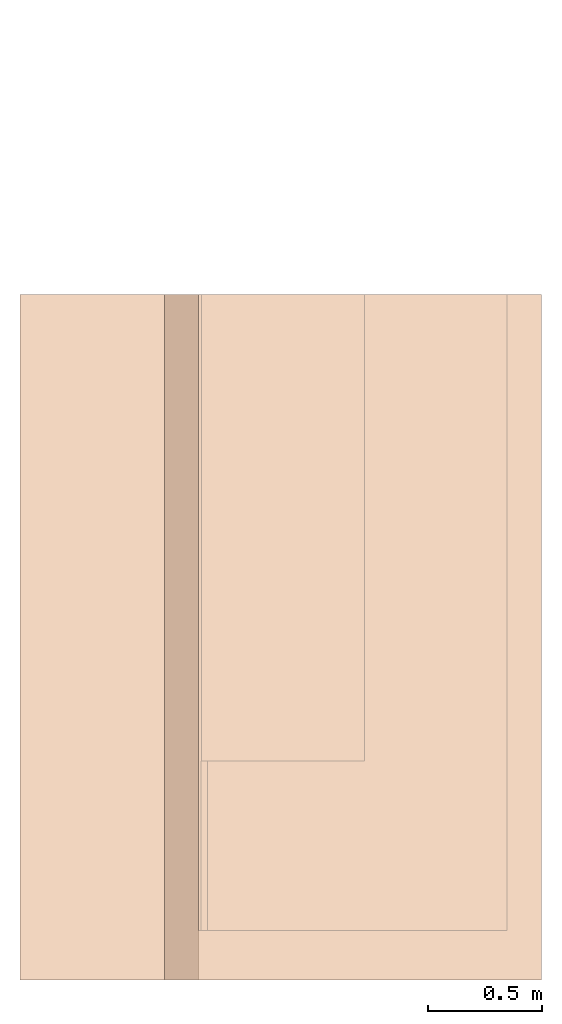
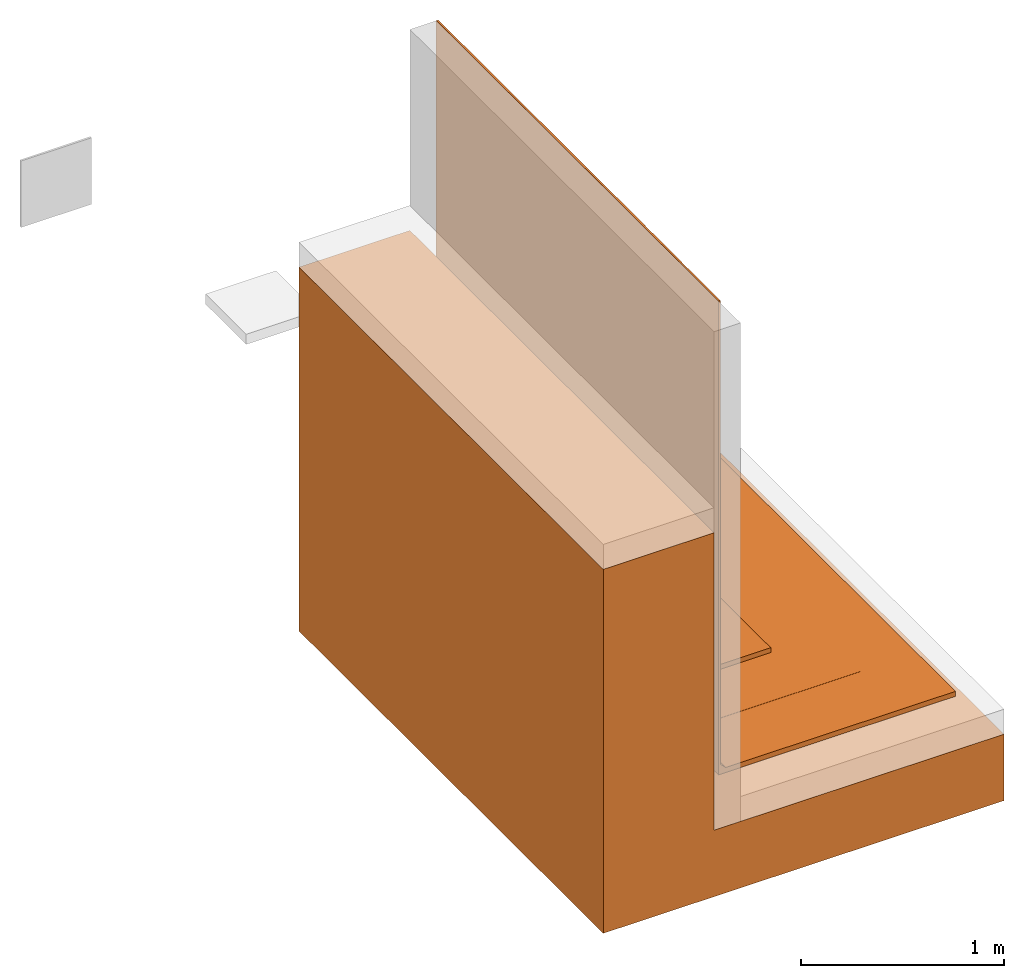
# One storey, part 2 of 2: 1 proxy.
"""IFC2X3 building model written with IfcOpenShell, lengths in metres."""

from ifc_helpers import new_model, entity, si_unit, converted_unit, derived_unit, direction, frame, frame_2d, origin, place, context, subcontext, project, spatial, polyline, circle_curve, parameter, trimmed, segment, composite_curve, rectangle, outline, extrude, source, transform, mapped, material, material_list, type_object, type_shapes, element, save


model = new_model("IFC2X3")

# Units and contexts
model_context = context("Model", 3, precision=1e-05, world=origin(), true_north=direction((6.123031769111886e-17, 1.0)))
body_context = subcontext(model_context, "Body", "Model", "MODEL_VIEW")
ifc_project = project(units=[si_unit("LENGTHUNIT", "METRE"), si_unit("AREAUNIT", "SQUARE_METRE"), si_unit("VOLUMEUNIT", "CUBIC_METRE"), converted_unit("PLANEANGLEUNIT", "DEGREE", entity("IfcRatioMeasure", 0.017453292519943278), si_unit("PLANEANGLEUNIT", "RADIAN"), dimensions=[0, 0, 0, 0, 0, 0, 0]), si_unit("MASSUNIT", "GRAM", prefix="KILO"), derived_unit("MASSDENSITYUNIT", [(si_unit("MASSUNIT", "GRAM", prefix="KILO"), 1), (si_unit("LENGTHUNIT", "METRE"), -3)]), derived_unit("IONCONCENTRATIONUNIT", [(si_unit("MASSUNIT", "GRAM", prefix="KILO"), 1), (si_unit("LENGTHUNIT", "METRE"), -3)]), derived_unit("MOMENTOFINERTIAUNIT", [(si_unit("LENGTHUNIT", "METRE"), 4)]), si_unit("TIMEUNIT", "SECOND"), si_unit("FREQUENCYUNIT", "HERTZ"), si_unit("THERMODYNAMICTEMPERATUREUNIT", "DEGREE_CELSIUS"), derived_unit("THERMALTRANSMITTANCEUNIT", [(si_unit("MASSUNIT", "GRAM", prefix="KILO"), 1), (si_unit("THERMODYNAMICTEMPERATUREUNIT", "KELVIN"), -1), (si_unit("TIMEUNIT", "SECOND"), -3)]), derived_unit("THERMALCONDUCTANCEUNIT", [(si_unit("MASSUNIT", "GRAM", prefix="KILO"), 1), (si_unit("THERMODYNAMICTEMPERATUREUNIT", "KELVIN"), -1), (si_unit("TIMEUNIT", "SECOND"), -3), (si_unit("LENGTHUNIT", "METRE"), 1)]), derived_unit("VOLUMETRICFLOWRATEUNIT", [(si_unit("LENGTHUNIT", "METRE"), 3), (si_unit("TIMEUNIT", "SECOND"), -1)]), derived_unit("MASSFLOWRATEUNIT", [(si_unit("MASSUNIT", "GRAM", prefix="KILO"), 1), (si_unit("TIMEUNIT", "SECOND"), -1)]), derived_unit("ROTATIONALFREQUENCYUNIT", [(si_unit("TIMEUNIT", "SECOND"), -1)]), si_unit("ELECTRICCURRENTUNIT", "AMPERE"), si_unit("ELECTRICVOLTAGEUNIT", "VOLT"), si_unit("POWERUNIT", "WATT"), si_unit("FORCEUNIT", "NEWTON", prefix="KILO"), si_unit("ILLUMINANCEUNIT", "LUX"), si_unit("LUMINOUSFLUXUNIT", "LUMEN"), si_unit("LUMINOUSINTENSITYUNIT", "CANDELA"), derived_unit("USERDEFINED", [(si_unit("MASSUNIT", "GRAM", prefix="KILO"), -1), (si_unit("LENGTHUNIT", "METRE"), -2), (si_unit("TIMEUNIT", "SECOND"), 3), (si_unit("LUMINOUSFLUXUNIT", "LUMEN"), 1)]), derived_unit("USERDEFINED", [(si_unit("MASSUNIT", "GRAM", prefix="KILO"), 1), (si_unit("TIMEUNIT", "SECOND"), -3), (si_unit("LENGTHUNIT", "METRE"), 3), (si_unit("ELECTRICCURRENTUNIT", "AMPERE"), -2)]), derived_unit("SOUNDPOWERUNIT", [(si_unit("MASSUNIT", "GRAM", prefix="KILO"), 1), (si_unit("TIMEUNIT", "SECOND"), -3), (si_unit("LENGTHUNIT", "METRE"), 2)]), derived_unit("SOUNDPRESSUREUNIT", [(si_unit("MASSUNIT", "GRAM", prefix="KILO"), 1), (si_unit("LENGTHUNIT", "METRE"), -1), (si_unit("TIMEUNIT", "SECOND"), -2)]), derived_unit("LINEARVELOCITYUNIT", [(si_unit("LENGTHUNIT", "METRE"), 1), (si_unit("TIMEUNIT", "SECOND"), -1)]), si_unit("PRESSUREUNIT", "PASCAL"), derived_unit("USERDEFINED", [(si_unit("MASSUNIT", "GRAM", prefix="KILO"), 1), (si_unit("LENGTHUNIT", "METRE"), -2), (si_unit("TIMEUNIT", "SECOND"), -2)]), derived_unit("LINEARFORCEUNIT", [(si_unit("MASSUNIT", "GRAM", prefix="KILO"), 1), (si_unit("TIMEUNIT", "SECOND"), -2)]), derived_unit("PLANARFORCEUNIT", [(si_unit("MASSUNIT", "GRAM", prefix="KILO"), 1), (si_unit("LENGTHUNIT", "METRE"), -1), (si_unit("TIMEUNIT", "SECOND"), -2)]), derived_unit("SPECIFICHEATCAPACITYUNIT", [(si_unit("THERMODYNAMICTEMPERATUREUNIT", "KELVIN"), -1), (si_unit("LENGTHUNIT", "METRE"), 2), (si_unit("TIMEUNIT", "SECOND"), -2)]), derived_unit("HEATINGVALUEUNIT", [(si_unit("LENGTHUNIT", "METRE"), 2), (si_unit("TIMEUNIT", "SECOND"), -2)]), derived_unit("VAPORPERMEABILITYUNIT", [(si_unit("LENGTHUNIT", "METRE"), -1), (si_unit("TIMEUNIT", "SECOND"), 1)]), derived_unit("DYNAMICVISCOSITYUNIT", [(si_unit("MASSUNIT", "GRAM", prefix="KILO"), 1), (si_unit("TIMEUNIT", "SECOND"), -1), (si_unit("LENGTHUNIT", "METRE"), -1)]), derived_unit("THERMALEXPANSIONCOEFFICIENTUNIT", [(si_unit("THERMODYNAMICTEMPERATUREUNIT", "KELVIN"), -1)]), derived_unit("MODULUSOFELASTICITYUNIT", [(si_unit("MASSUNIT", "GRAM", prefix="KILO"), 1), (si_unit("LENGTHUNIT", "METRE"), -1), (si_unit("TIMEUNIT", "SECOND"), -2)]), derived_unit("ISOTHERMALMOISTURECAPACITYUNIT", [(si_unit("LENGTHUNIT", "METRE"), 3), (si_unit("MASSUNIT", "GRAM", prefix="KILO"), -1)]), derived_unit("MOISTUREDIFFUSIVITYUNIT", [(si_unit("TIMEUNIT", "SECOND"), -1), (si_unit("LENGTHUNIT", "METRE"), 2)])], contexts=[model_context])

# Site, building, storey
site_placement = place(None, origin())
site = spatial("IfcSite", under=ifc_project, at=site_placement, Name="Default", CompositionType="ELEMENT")
building_placement = place(site_placement, origin())
building = spatial("IfcBuilding", under=site, at=building_placement, CompositionType="ELEMENT")
storey_placement = place(building_placement, frame((0.0, 0.0, -0.0025237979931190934)))
storey = spatial("IfcBuildingStorey", under=building, at=storey_placement, Name="ARQ Térreo", CompositionType="ELEMENT", Elevation=-0.0025237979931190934)

# Proxy
ifc_material_1 = material(Name="#Argamassa")
ifc_material_2 = material(Name="#Proteção Mecânica")
ifc_material_3 = material(Name="#Chapisco")
ifc_material_4 = material(Name="#VIAPLUS 1000")
ifc_material_5 = material(Name="#solo")
ifc_material_list = material_list([ifc_material_1, ifc_material_2, ifc_material_3, ifc_material_4, ifc_material_5])
building_element_proxy_type = type_object("IfcBuildingElementProxyType", Name="IMPER:IMPER", PredefinedType="NOTDEFINED", material=ifc_material_list)
shared_shape = source(origin(), body_context, "Body", "SweptSolid", [
    extrude(rectangle(XDim=2.7842204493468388, YDim=0.010000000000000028, at=frame_2d((2.220446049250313e-16, 0.0), x_axis=(1.0, 0.0))), frame((-0.3469704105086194, -1.2462402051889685, 0.14747620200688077), z_axis=(0.0, 0.0, 1.0), x_axis=(0.0, -1.0, 0.0)), (0.0, 0.0, 1.0), 2.8499999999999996),
    extrude(outline(composite_curve([segment(polyline([(-0.35043803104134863, -0.014500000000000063), (0.3364469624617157, -0.014500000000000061)]), True, "CONTINUOUS"), segment(trimmed(circle_curve(frame_2d((0.33644696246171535, 0.013500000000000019), x_axis=(-1.0, 0.0)), 0.02800000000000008), [parameter(89.99999999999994)], [parameter(182.04671309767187)], True, "PARAMETER"), True, "CONTINUOUS"), segment(polyline([(0.36442909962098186, 0.014499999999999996), (-0.350438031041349, 0.014500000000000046)]), True, "CONTINUOUS"), segment(polyline([(-0.35043803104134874, 0.014500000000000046), (-0.35043803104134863, -0.014500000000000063)]), True, "CONTINUOUS")], self_intersect=False)), frame((0.02347655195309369, -1.8951970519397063, 0.1929762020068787), z_axis=(0.0, 1.0, 0.0), x_axis=(-1.0, 0.0, 0.0)), (0.0, 0.0, 1.0), 2.041067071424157),
    extrude(rectangle(XDim=2.041067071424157, YDim=0.0009999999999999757, at=frame_2d((1.1102230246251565e-16, 3.382710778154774e-17), x_axis=(1.0, 0.0))), frame((-0.34047041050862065, -0.8746635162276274, 0.20747620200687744), z_axis=(0.0, 0.0, 1.0), x_axis=(0.0, -1.0, 0.0)), (0.0, 0.0, 1.0), 2.790000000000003),
    extrude(outline(composite_curve([segment(polyline([(0.7117499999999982, -0.7564236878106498), (0.7127499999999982, -0.7564236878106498)]), True, "CONTINUOUS"), segment(polyline([(0.7127499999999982, -0.7564236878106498), (0.7127500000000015, 0.23247456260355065)]), True, "CONTINUOUS"), segment(trimmed(circle_curve(frame_2d((0.6827500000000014, 0.23247456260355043), x_axis=(0.0, -1.0)), 0.030000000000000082), [parameter(89.99999999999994)], [parameter(180.0000000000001)], True, "PARAMETER"), True, "CONTINUOUS"), segment(polyline([(0.6827500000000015, 0.2624745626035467), (-2.1072500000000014, 0.2624745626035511)]), True, "CONTINUOUS"), segment(polyline([(-2.1072500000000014, 0.2624745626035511), (-2.1072500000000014, 0.26147456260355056)]), True, "CONTINUOUS"), segment(polyline([(-2.1072500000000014, 0.26147456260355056), (0.6827500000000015, 0.26147456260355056)]), True, "CONTINUOUS"), segment(trimmed(circle_curve(frame_2d((0.6827500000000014, 0.23247456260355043), x_axis=(0.0, -1.0)), 0.02900000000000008), [parameter(89.99999999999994)], [parameter(180.00000000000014)], True, "PARAMETER"), False, "CONTINUOUS"), segment(polyline([(0.7117500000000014, 0.23247456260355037), (0.7117499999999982, -0.7564236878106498)]), True, "CONTINUOUS")], self_intersect=False)), frame((-0.07949584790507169, -2.2573298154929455, 0.890226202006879), z_axis=(0.0, 1.0, 0.0), x_axis=(0.0, 0.0, -1.0)), (0.0, 0.0, 1.0), 2.403199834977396),
    extrude(outline(composite_curve([segment(polyline([(-0.0060000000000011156, -0.7973389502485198), (0.023999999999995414, -0.7973389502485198)]), True, "CONTINUOUS"), segment(polyline([(0.023999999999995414, -0.7973389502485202), (0.023999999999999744, 0.5415593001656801)]), True, "CONTINUOUS"), segment(polyline([(0.023999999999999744, 0.5415593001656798), (-0.03599999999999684, 0.5415593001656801)]), True, "CONTINUOUS"), segment(trimmed(circle_curve(frame_2d((-0.035999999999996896, 0.51155930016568), x_axis=(0.0, -1.0)), 0.030000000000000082), [parameter(90.00000000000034)], [parameter(180.00000000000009)], True, "PARAMETER"), False, "CONTINUOUS"), segment(polyline([(-0.0059999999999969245, 0.5115593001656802), (-0.0060000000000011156, -0.7973389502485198)]), True, "CONTINUOUS")], self_intersect=False)), frame((0.1995888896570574, -2.638350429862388, 0.17147620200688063), z_axis=(0.0, 1.0, 0.0), x_axis=(0.0, 0.0, -1.0)), (0.0, 0.0, 1.0), 2.7842204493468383),
    extrude(outline(polyline([(-0.7972769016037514, -0.8320581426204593), (-0.39727690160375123, -0.8320581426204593), (1.3931922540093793, -0.8320581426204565), (1.393192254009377, -0.2009563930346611), (-0.397276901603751, -0.20095639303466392), (-0.39727690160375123, 1.4490436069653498), (-0.7972769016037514, 1.4490436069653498), (-0.7972769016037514, -0.8320581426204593)])), frame((-0.3010140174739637, -2.854129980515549, 0.39475310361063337), z_axis=(0.0, 1.0, 0.0), x_axis=(0.0, 0.0, 1.0)), (0.0, 0.0, 1.0), 3.0000000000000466),
])
type_shapes(building_element_proxy_type, [shared_shape])
proxy_placement = place(storey_placement, frame((0.0, 0.0, 0.0025237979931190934)))
element("IfcBuildingElementProxy", 1, at=proxy_placement, inside=storey, type_object=building_element_proxy_type, material=ifc_material_list, Name="IMPER:IMPER:IMPER : IMPER:IMPER", ObjectType="IMPER:IMPER:IMPER : IMPER:IMPER", context=body_context, shape_type="MappedRepresentation", body=[
    mapped(shared_shape, transform((0.0, 0.0, 0.0), scale=1.0)),
])

save(model, "model.ifc")
